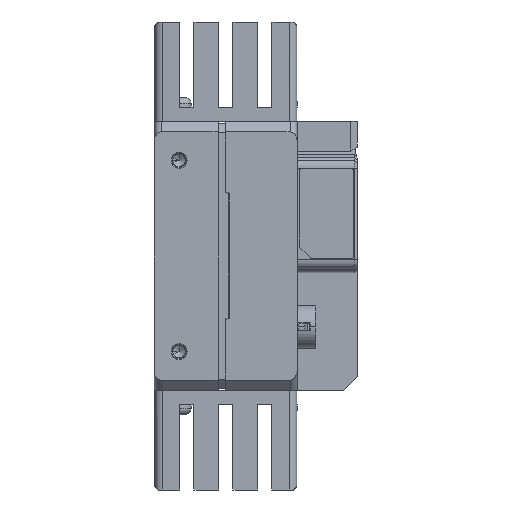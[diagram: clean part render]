
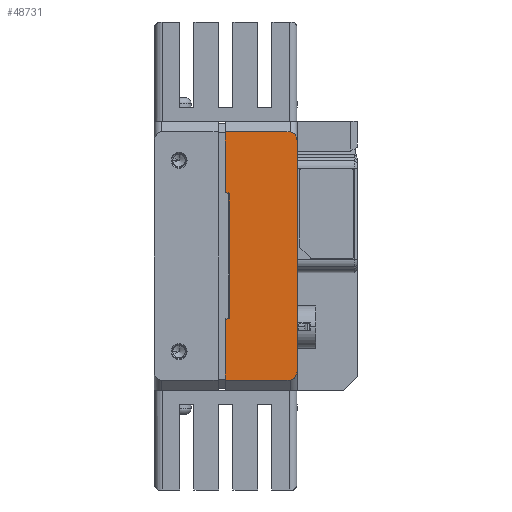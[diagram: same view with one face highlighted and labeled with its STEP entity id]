
A CAD part, left-side view. The second image highlights one B-rep face of the part: STEP entity #48731.
In plain terms, the highlighted planar face has unit normal (-1, 0, 0) as drawn and (1, 0, 0) by its records, which use the part's own axes.
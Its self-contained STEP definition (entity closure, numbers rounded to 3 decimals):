
#42255=DIRECTION('',(0.,0.,1.));
#42256=VECTOR('',#42255,64.343);
#42257=CARTESIAN_POINT('',(38.,20.3,-32.172));
#42258=LINE('',#42257,#42256);
#42933=DIRECTION('',(0.,0.,-1.));
#42934=VECTOR('',#42933,35.115);
#42935=CARTESIAN_POINT('',(38.,1.1,17.494));
#42936=LINE('',#42935,#42934);
#42957=DIRECTION('',(0.,-0.94,-0.342));
#42958=VECTOR('',#42957,1.101);
#42959=CARTESIAN_POINT('',(38.,1.1,-17.621));
#42960=LINE('',#42959,#42958);
#43009=DIRECTION('',(0.,0.94,-0.342));
#43010=VECTOR('',#43009,0.891);
#43011=CARTESIAN_POINT('',(38.,0.066,18.081));
#43012=LINE('',#43011,#43010);
#43037=CARTESIAN_POINT('',(38.,0.1,18.175));
#43038=DIRECTION('',(1.,0.,0.));
#43039=DIRECTION('',(0.,-1.,0.));
#43040=AXIS2_PLACEMENT_3D('',#43037,#43038,#43039);
#43042=DIRECTION('',(0.,-1.,0.));
#43043=VECTOR('',#43042,18.3);
#43044=CARTESIAN_POINT('',(38.,18.3,35.));
#43045=LINE('',#43044,#43043);
#43046=CARTESIAN_POINT('',(38.,20.3,32.172));
#43047=CARTESIAN_POINT('',(38.,20.3,32.574));
#43048=CARTESIAN_POINT('',(38.,20.188,33.267));
#43049=CARTESIAN_POINT('',(38.,19.816,34.101));
#43050=CARTESIAN_POINT('',(38.,19.343,34.635));
#43051=CARTESIAN_POINT('',(38.,18.827,34.923));
#43052=CARTESIAN_POINT('',(38.,18.501,35.));
#43053=CARTESIAN_POINT('',(38.,18.3,35.));
#43055=CARTESIAN_POINT('',(38.,18.3,-35.));
#43056=CARTESIAN_POINT('',(38.,18.501,-35.));
#43057=CARTESIAN_POINT('',(38.,18.827,-34.923));
#43058=CARTESIAN_POINT('',(38.,19.343,-34.635));
#43059=CARTESIAN_POINT('',(38.,19.816,-34.101));
#43060=CARTESIAN_POINT('',(38.,20.188,-33.267));
#43061=CARTESIAN_POINT('',(38.,20.3,-32.574));
#43062=CARTESIAN_POINT('',(38.,20.3,-32.172));
#43064=DIRECTION('',(0.,-1.,0.));
#43065=VECTOR('',#43064,18.3);
#43066=CARTESIAN_POINT('',(38.,18.3,-35.));
#43067=LINE('',#43066,#43065);
#43068=CARTESIAN_POINT('',(38.,0.1,-18.091));
#43069=DIRECTION('',(1.,0.,0.));
#43070=DIRECTION('',(0.,-0.342,0.94));
#43071=AXIS2_PLACEMENT_3D('',#43068,#43069,#43070);
#43078=CARTESIAN_POINT('',(38.,0.8,17.494));
#43079=DIRECTION('',(-1.,0.,0.));
#43080=DIRECTION('',(0.,0.342,0.94));
#43081=AXIS2_PLACEMENT_3D('',#43078,#43079,#43080);
#43166=DIRECTION('',(0.,0.,-1.));
#43167=VECTOR('',#43166,16.909);
#43168=CARTESIAN_POINT('',(38.,0.,-18.091));
#43169=LINE('',#43168,#43167);
#43222=DIRECTION('',(0.,0.,-1.));
#43223=VECTOR('',#43222,16.825);
#43224=CARTESIAN_POINT('',(38.,0.,35.));
#43225=LINE('',#43224,#43223);
#46007=CARTESIAN_POINT('',(38.,0.,-35.));
#46009=VERTEX_POINT('',#46007);
#46010=CARTESIAN_POINT('',(38.,0.,35.));
#46012=VERTEX_POINT('',#46010);
#46042=VERTEX_POINT('',#43055);
#46043=VERTEX_POINT('',#43062);
#46054=VERTEX_POINT('',#43046);
#46055=VERTEX_POINT('',#43053);
#46080=CARTESIAN_POINT('',(38.,1.1,-17.621));
#46081=CARTESIAN_POINT('',(38.,0.066,-17.997));
#46082=VERTEX_POINT('',#46080);
#46083=VERTEX_POINT('',#46081);
#46084=CARTESIAN_POINT('',(38.,0.,18.175));
#46085=CARTESIAN_POINT('',(38.,0.066,18.081));
#46086=VERTEX_POINT('',#46084);
#46087=VERTEX_POINT('',#46085);
#46092=CARTESIAN_POINT('',(38.,0.,-18.091));
#46093=VERTEX_POINT('',#46092);
#46114=CARTESIAN_POINT('',(38.,0.903,17.776));
#46115=VERTEX_POINT('',#46114);
#46142=CARTESIAN_POINT('',(38.,1.1,17.494));
#46143=VERTEX_POINT('',#46142);
#48703=CARTESIAN_POINT('',(38.,0.,38.));
#48704=DIRECTION('',(1.,0.,0.));
#48705=DIRECTION('',(0.,0.,-1.));
#48706=AXIS2_PLACEMENT_3D('',#48703,#48704,#48705);
#48707=PLANE('',#48706);
#48708=ORIENTED_EDGE('',*,*,#48591,.F.);
#48709=ORIENTED_EDGE('',*,*,#48564,.F.);
#48711=ORIENTED_EDGE('',*,*,#48710,.F.);
#48712=ORIENTED_EDGE('',*,*,#48668,.F.);
#48713=ORIENTED_EDGE('',*,*,#48694,.F.);
#48715=ORIENTED_EDGE('',*,*,#48714,.F.);
#48717=ORIENTED_EDGE('',*,*,#48716,.F.);
#48719=ORIENTED_EDGE('',*,*,#48718,.F.);
#48720=ORIENTED_EDGE('',*,*,#47512,.F.);
#48722=ORIENTED_EDGE('',*,*,#48721,.F.);
#48724=ORIENTED_EDGE('',*,*,#48723,.T.);
#48726=ORIENTED_EDGE('',*,*,#48725,.F.);
#48728=ORIENTED_EDGE('',*,*,#48727,.F.);
#48729=EDGE_LOOP('',(#48708,#48709,#48711,#48712,#48713,#48715,#48717,#48719,
#48720,#48722,#48724,#48726,#48728));
#48730=FACE_OUTER_BOUND('',#48729,.F.);
#48731=ADVANCED_FACE('',(#48730),#48707,.T.);
#43041=CIRCLE('',#43040,0.1);
#43054=B_SPLINE_CURVE_WITH_KNOTS('',3,(#43046,#43047,#43048,#43049,#43050,
#43051,#43052,#43053),.UNSPECIFIED.,.F.,.F.,(4,1,1,1,1,4),(0.,0.25,0.5,
0.75,0.875,1.),.UNSPECIFIED.);
#43063=B_SPLINE_CURVE_WITH_KNOTS('',3,(#43055,#43056,#43057,#43058,#43059,
#43060,#43061,#43062),.UNSPECIFIED.,.F.,.F.,(4,1,1,1,1,4),(0.,0.125,0.25,
0.5,0.75,1.),.UNSPECIFIED.);
#43072=CIRCLE('',#43071,0.1);
#43082=CIRCLE('',#43081,0.3);
#47512=EDGE_CURVE('',#46043,#46054,#42258,.T.);
#48564=EDGE_CURVE('',#46143,#46082,#42936,.T.);
#48591=EDGE_CURVE('',#46082,#46083,#42960,.T.);
#48668=EDGE_CURVE('',#46087,#46115,#43012,.T.);
#48694=EDGE_CURVE('',#46086,#46087,#43041,.T.);
#48710=EDGE_CURVE('',#46115,#46143,#43082,.T.);
#48714=EDGE_CURVE('',#46012,#46086,#43225,.T.);
#48716=EDGE_CURVE('',#46055,#46012,#43045,.T.);
#48718=EDGE_CURVE('',#46054,#46055,#43054,.T.);
#48721=EDGE_CURVE('',#46042,#46043,#43063,.T.);
#48723=EDGE_CURVE('',#46042,#46009,#43067,.T.);
#48725=EDGE_CURVE('',#46093,#46009,#43169,.T.);
#48727=EDGE_CURVE('',#46083,#46093,#43072,.T.);
